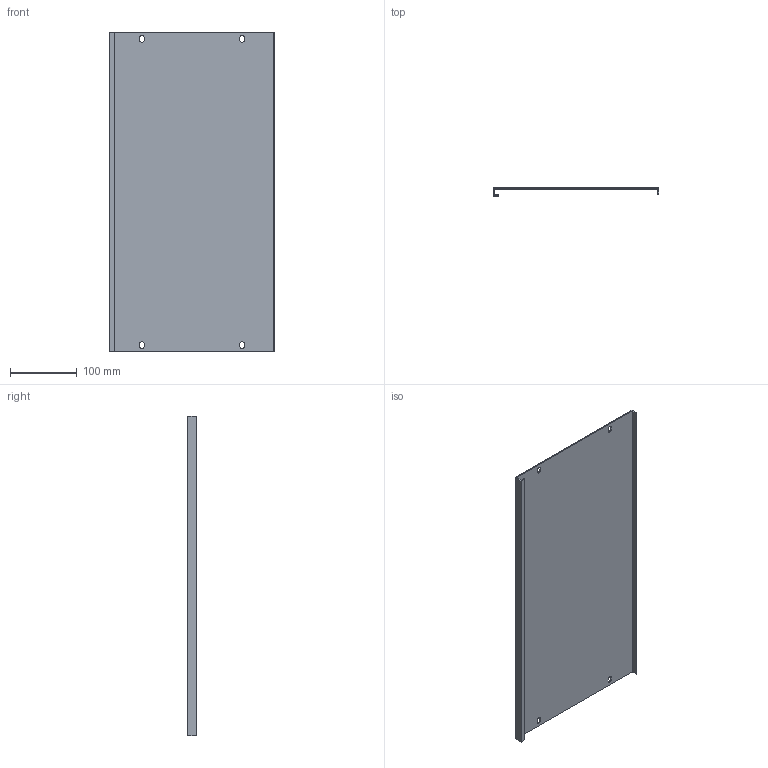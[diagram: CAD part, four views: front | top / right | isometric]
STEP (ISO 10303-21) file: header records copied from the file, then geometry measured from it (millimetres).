
FILE_DESCRIPTION (( 'STEP AP214' ), '1' );
FILE_NAME ('FO-00-PVS-025-060 Ïëàñòðîí ãëóõîé âíóòðåííèé 250õ600.STEP', '2025-08-27T08:41:34', ( '' ), ( '' ), 'SwSTEP 2.0', 'SolidWorks 2023', '' );
FILE_SCHEMA (( 'AUTOMOTIVE_DESIGN' ));
Length unit declared in the file: millimetre
Products named in the file (1): FO-00-PVS-025-060 Пластрон глухой внутренний 250х600
Bounding box: 248 x 12.5 x 479 mm (x, y, z)
Volume: 196512.1 mm3; surface area: 264443.1 mm2
Topology: 1 solids, 1 shells, 42 faces, 120 edges, 80 vertices
Faces by surface type: plane 30, cylinder 12
Entity records: 1407 total; most frequent: CARTESIAN_POINT 243, ORIENTED_EDGE 240, DIRECTION 230, EDGE_CURVE 120, LINE 96, VECTOR 96, VERTEX_POINT 80, AXIS2_PLACEMENT_3D 67
